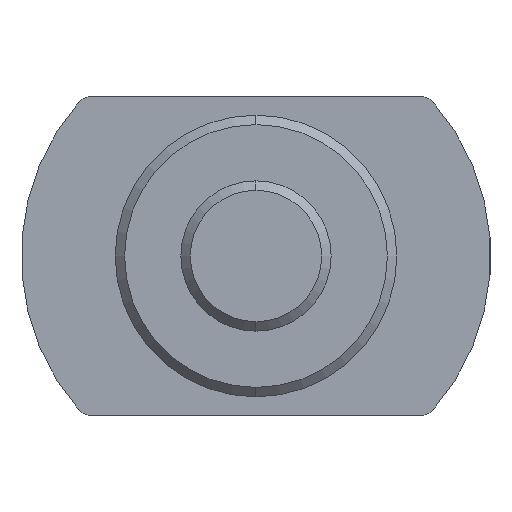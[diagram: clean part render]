
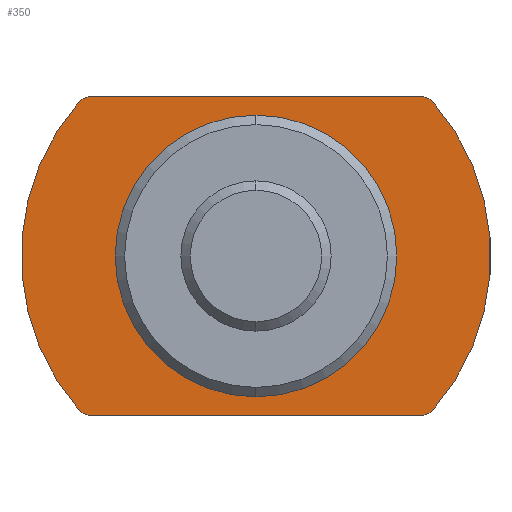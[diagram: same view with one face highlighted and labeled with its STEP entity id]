
A CAD part, left-side view. The second image highlights one B-rep face of the part: STEP entity #350.
In plain terms, the highlighted planar face has unit normal (-1, 0, 0).
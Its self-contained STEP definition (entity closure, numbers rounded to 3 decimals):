
#51=CARTESIAN_POINT('',(150.5,-740.5,9.));
#52=DIRECTION('',(1.,0.,0.));
#53=DIRECTION('',(0.,0.,-1.));
#54=AXIS2_PLACEMENT_3D('',#51,#52,#53);
#56=CARTESIAN_POINT('',(150.5,-740.5,9.));
#57=DIRECTION('',(1.,0.,0.));
#58=DIRECTION('',(0.,0.,1.));
#59=AXIS2_PLACEMENT_3D('',#56,#57,#58);
#61=CARTESIAN_POINT('',(150.5,-731.782,1.5));
#62=DIRECTION('',(-1.,0.,0.));
#63=DIRECTION('',(0.,0.758,-0.652));
#64=AXIS2_PLACEMENT_3D('',#61,#62,#63);
#66=CARTESIAN_POINT('',(150.5,-740.5,9.));
#67=DIRECTION('',(-1.,0.,0.));
#68=DIRECTION('',(0.,0.758,0.652));
#69=AXIS2_PLACEMENT_3D('',#66,#67,#68);
#71=CARTESIAN_POINT('',(150.5,-731.782,16.5));
#72=DIRECTION('',(-1.,0.,0.));
#73=DIRECTION('',(0.,0.,1.));
#74=AXIS2_PLACEMENT_3D('',#71,#72,#73);
#76=CARTESIAN_POINT('',(150.5,-749.218,16.5));
#77=DIRECTION('',(-1.,0.,0.));
#78=DIRECTION('',(0.,-0.758,0.652));
#79=AXIS2_PLACEMENT_3D('',#76,#77,#78);
#81=CARTESIAN_POINT('',(150.5,-740.5,9.));
#82=DIRECTION('',(-1.,0.,0.));
#83=DIRECTION('',(0.,-0.758,-0.652));
#84=AXIS2_PLACEMENT_3D('',#81,#82,#83);
#86=CARTESIAN_POINT('',(150.5,-749.218,1.5));
#87=DIRECTION('',(-1.,0.,0.));
#88=DIRECTION('',(0.,0.,-1.));
#89=AXIS2_PLACEMENT_3D('',#86,#87,#88);
#91=DIRECTION('',(0.,-1.,0.));
#92=VECTOR('',#91,17.436);
#93=CARTESIAN_POINT('',(150.5,-731.782,0.5));
#94=LINE('',#93,#92);
#181=DIRECTION('',(0.,-1.,0.));
#182=VECTOR('',#181,17.436);
#183=CARTESIAN_POINT('',(150.5,-731.782,17.5));
#184=LINE('',#183,#182);
#202=CARTESIAN_POINT('',(150.5,-731.024,0.848));
#204=VERTEX_POINT('',#202);
#207=CARTESIAN_POINT('',(150.5,-731.782,0.5));
#208=VERTEX_POINT('',#207);
#209=CARTESIAN_POINT('',(150.5,-731.782,17.5));
#211=VERTEX_POINT('',#209);
#215=CARTESIAN_POINT('',(150.5,-731.024,17.152));
#216=VERTEX_POINT('',#215);
#217=CARTESIAN_POINT('',(150.5,-749.218,17.5));
#218=VERTEX_POINT('',#217);
#222=CARTESIAN_POINT('',(150.5,-749.976,17.152));
#224=VERTEX_POINT('',#222);
#225=CARTESIAN_POINT('',(150.5,-749.976,0.848));
#226=VERTEX_POINT('',#225);
#229=CARTESIAN_POINT('',(150.5,-749.218,0.5));
#231=VERTEX_POINT('',#229);
#237=CARTESIAN_POINT('',(150.5,-740.5,16.5));
#238=CARTESIAN_POINT('',(150.5,-740.5,1.5));
#239=VERTEX_POINT('',#237);
#240=VERTEX_POINT('',#238);
#324=CARTESIAN_POINT('',(150.5,-740.5,9.));
#325=DIRECTION('',(-1.,0.,0.));
#326=DIRECTION('',(0.,0.,-1.));
#327=AXIS2_PLACEMENT_3D('',#324,#325,#326);
#328=PLANE('',#327);
#329=ORIENTED_EDGE('',*,*,#264,.F.);
#330=ORIENTED_EDGE('',*,*,#283,.F.);
#332=ORIENTED_EDGE('',*,*,#331,.F.);
#334=ORIENTED_EDGE('',*,*,#333,.T.);
#336=ORIENTED_EDGE('',*,*,#335,.F.);
#338=ORIENTED_EDGE('',*,*,#337,.F.);
#340=ORIENTED_EDGE('',*,*,#339,.F.);
#341=ORIENTED_EDGE('',*,*,#316,.F.);
#342=EDGE_LOOP('',(#329,#330,#332,#334,#336,#338,#340,#341));
#343=FACE_OUTER_BOUND('',#342,.F.);
#345=ORIENTED_EDGE('',*,*,#344,.F.);
#347=ORIENTED_EDGE('',*,*,#346,.F.);
#348=EDGE_LOOP('',(#345,#347));
#349=FACE_BOUND('',#348,.F.);
#350=ADVANCED_FACE('',(#343,#349),#328,.T.);
#55=CIRCLE('',#54,7.5);
#60=CIRCLE('',#59,7.5);
#65=CIRCLE('',#64,1.);
#70=CIRCLE('',#69,12.5);
#75=CIRCLE('',#74,1.);
#80=CIRCLE('',#79,1.);
#85=CIRCLE('',#84,12.5);
#90=CIRCLE('',#89,1.);
#264=EDGE_CURVE('',#204,#208,#65,.T.);
#283=EDGE_CURVE('',#216,#204,#70,.T.);
#316=EDGE_CURVE('',#208,#231,#94,.T.);
#331=EDGE_CURVE('',#211,#216,#75,.T.);
#333=EDGE_CURVE('',#211,#218,#184,.T.);
#335=EDGE_CURVE('',#224,#218,#80,.T.);
#337=EDGE_CURVE('',#226,#224,#85,.T.);
#339=EDGE_CURVE('',#231,#226,#90,.T.);
#344=EDGE_CURVE('',#240,#239,#55,.T.);
#346=EDGE_CURVE('',#239,#240,#60,.T.);
